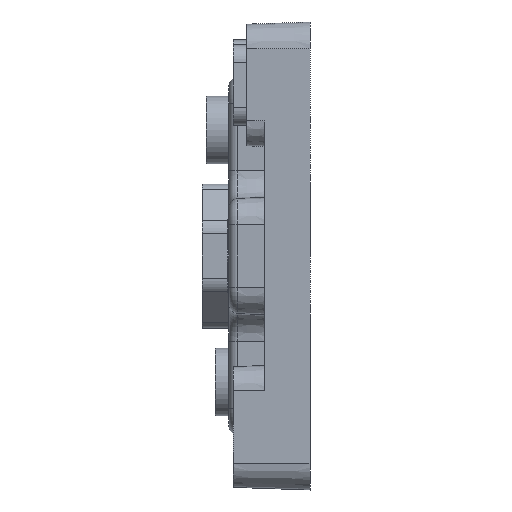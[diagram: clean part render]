
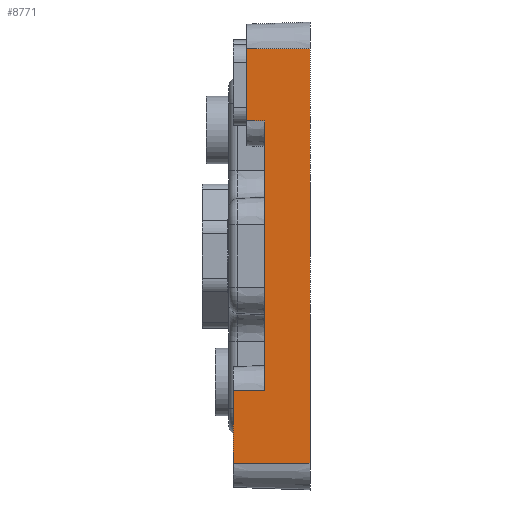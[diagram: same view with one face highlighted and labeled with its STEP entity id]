
A CAD part, left-side view. The second image highlights one B-rep face of the part: STEP entity #8771.
In plain terms, the highlighted planar face has unit normal (-0.999, 0.035, 0).
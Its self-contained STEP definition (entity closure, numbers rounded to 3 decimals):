
#38 = VERTEX_POINT ( 'NONE', #854 ) ;
#164 = DIRECTION ( 'NONE',  ( 0., 0., 1. ) ) ;
#202 = CARTESIAN_POINT ( 'NONE',  ( -25., 0., -15. ) ) ;
#250 = CARTESIAN_POINT ( 'NONE',  ( -24.756, 7., 23. ) ) ;
#266 = PLANE ( 'NONE',  #5577 ) ;
#495 = EDGE_CURVE ( 'NONE', #6148, #5927, #5154, .T. ) ;
#719 = CARTESIAN_POINT ( 'NONE',  ( -24.756, 7., 0. ) ) ;
#854 = CARTESIAN_POINT ( 'NONE',  ( -24.825, 5., 15. ) ) ;
#934 = CARTESIAN_POINT ( 'NONE',  ( -25., 0., 0. ) ) ;
#937 = LINE ( 'NONE', #4174, #6805 ) ;
#974 = CARTESIAN_POINT ( 'NONE',  ( -24.756, 7., 15. ) ) ;
#994 = CARTESIAN_POINT ( 'NONE',  ( -24.825, 5., 0. ) ) ;
#1055 = DIRECTION ( 'NONE',  ( -0.999, 0.035, 0. ) ) ;
#1113 = VECTOR ( 'NONE', #5868, 1000. ) ;
#1160 = CARTESIAN_POINT ( 'NONE',  ( -24.825, 5., -15. ) ) ;
#1197 = VERTEX_POINT ( 'NONE', #974 ) ;
#1385 = DIRECTION ( 'NONE',  ( 0., 0., 1. ) ) ;
#1390 = ORIENTED_EDGE ( 'NONE', *, *, #7441, .T. ) ;
#1428 = ORIENTED_EDGE ( 'NONE', *, *, #3718, .F. ) ;
#1747 = VECTOR ( 'NONE', #5173, 1000. ) ;
#1783 = EDGE_CURVE ( 'NONE', #1197, #38, #7411, .T. ) ;
#2001 = LINE ( 'NONE', #719, #7453 ) ;
#2250 = DIRECTION ( 'NONE',  ( 0.035, 0.999, 0. ) ) ;
#2350 = VERTEX_POINT ( 'NONE', #3878 ) ;
#2560 = ORIENTED_EDGE ( 'NONE', *, *, #6176, .F. ) ;
#2891 = VECTOR ( 'NONE', #2250, 1000. ) ;
#3037 = ORIENTED_EDGE ( 'NONE', *, *, #1783, .T. ) ;
#3267 = EDGE_CURVE ( 'NONE', #7494, #2350, #5652, .T. ) ;
#3680 = ORIENTED_EDGE ( 'NONE', *, *, #5265, .T. ) ;
#3718 = EDGE_CURVE ( 'NONE', #8277, #38, #4807, .T. ) ;
#3793 = ORIENTED_EDGE ( 'NONE', *, *, #3267, .T. ) ;
#3849 = VECTOR ( 'NONE', #5152, 1000. ) ;
#3878 = CARTESIAN_POINT ( 'NONE',  ( -25., 0., -23. ) ) ;
#4161 = VECTOR ( 'NONE', #5057, 1000. ) ;
#4174 = CARTESIAN_POINT ( 'NONE',  ( -25., 0., 0. ) ) ;
#4324 = CARTESIAN_POINT ( 'NONE',  ( -24.703, 8.5, -23. ) ) ;
#4325 = CARTESIAN_POINT ( 'NONE',  ( -25., 0., 23. ) ) ;
#4490 = CARTESIAN_POINT ( 'NONE',  ( -24.703, 8.5, -15. ) ) ;
#4535 = ORIENTED_EDGE ( 'NONE', *, *, #495, .T. ) ;
#4718 = LINE ( 'NONE', #8634, #1113 ) ;
#4807 = LINE ( 'NONE', #994, #4161 ) ;
#5009 = DIRECTION ( 'NONE',  ( 0.035, 0.999, 0. ) ) ;
#5057 = DIRECTION ( 'NONE',  ( 0., 0., 1. ) ) ;
#5152 = DIRECTION ( 'NONE',  ( -0.035, -0.999, 0. ) ) ;
#5154 = LINE ( 'NONE', #4325, #8260 ) ;
#5173 = DIRECTION ( 'NONE',  ( -0.035, -0.999, 0. ) ) ;
#5265 = EDGE_CURVE ( 'NONE', #8277, #6473, #6224, .T. ) ;
#5577 = AXIS2_PLACEMENT_3D ( 'NONE', #934, #1055, #7155 ) ;
#5652 = LINE ( 'NONE', #8626, #3849 ) ;
#5868 = DIRECTION ( 'NONE',  ( 0., 0., 1. ) ) ;
#5927 = VERTEX_POINT ( 'NONE', #250 ) ;
#6148 = VERTEX_POINT ( 'NONE', #7264 ) ;
#6176 = EDGE_CURVE ( 'NONE', #7494, #6473, #4718, .T. ) ;
#6224 = LINE ( 'NONE', #202, #2891 ) ;
#6473 = VERTEX_POINT ( 'NONE', #4490 ) ;
#6805 = VECTOR ( 'NONE', #164, 1000. ) ;
#6895 = ORIENTED_EDGE ( 'NONE', *, *, #7338, .F. ) ;
#7155 = DIRECTION ( 'NONE',  ( -0.035, -0.999, 0. ) ) ;
#7264 = CARTESIAN_POINT ( 'NONE',  ( -25., 0., 23. ) ) ;
#7279 = CARTESIAN_POINT ( 'NONE',  ( -25., 0., 15. ) ) ;
#7338 = EDGE_CURVE ( 'NONE', #1197, #5927, #2001, .T. ) ;
#7411 = LINE ( 'NONE', #7279, #1747 ) ;
#7441 = EDGE_CURVE ( 'NONE', #2350, #6148, #937, .T. ) ;
#7453 = VECTOR ( 'NONE', #1385, 1000. ) ;
#7494 = VERTEX_POINT ( 'NONE', #4324 ) ;
#7543 = EDGE_LOOP ( 'NONE', ( #2560, #3793, #1390, #4535, #6895, #3037, #1428, #3680 ) ) ;
#7644 = FACE_OUTER_BOUND ( 'NONE', #7543, .T. ) ;
#8260 = VECTOR ( 'NONE', #5009, 1000. ) ;
#8277 = VERTEX_POINT ( 'NONE', #1160 ) ;
#8626 = CARTESIAN_POINT ( 'NONE',  ( -25., 0., -23. ) ) ;
#8634 = CARTESIAN_POINT ( 'NONE',  ( -24.703, 8.5, 0. ) ) ;
#8771 = ADVANCED_FACE ( 'NONE', ( #7644 ), #266, .T. ) ;
